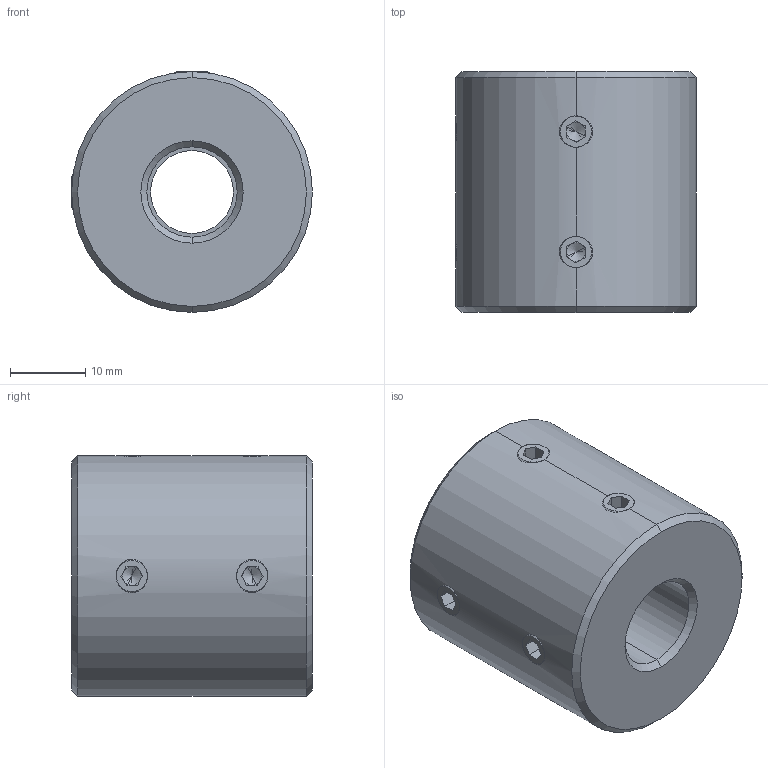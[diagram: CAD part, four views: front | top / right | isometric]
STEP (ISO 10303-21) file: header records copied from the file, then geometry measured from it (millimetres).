
FILE_DESCRIPTION (( 'STEP AP214' ), '1' );
FILE_NAME ('LL-D-D32L32-11-12½¨Ä£.STEP', '2022-07-22T11:30:16', ( '' ), ( '' ), 'SwSTEP 2.0', 'SolidWorks 2022', '' );
FILE_SCHEMA (( 'AUTOMOTIVE_DESIGN' ));
Length unit declared in the file: millimetre
Products named in the file (1): LL-D-D32L32-11-12膘耀
Bounding box: 32 x 32 x 32 mm (x, y, z)
Volume: 22139.2 mm3; surface area: 5891.5 mm2
Topology: 1 solids, 1 shells, 113 faces, 286 edges, 176 vertices
Faces by surface type: plane 59, cone 32, cylinder 22
Entity records: 3760 total; most frequent: CARTESIAN_POINT 1050, DIRECTION 558, ORIENTED_EDGE 556, EDGE_CURVE 278, AXIS2_PLACEMENT_3D 206, VERTEX_POINT 176, VECTOR 146, LINE 146
